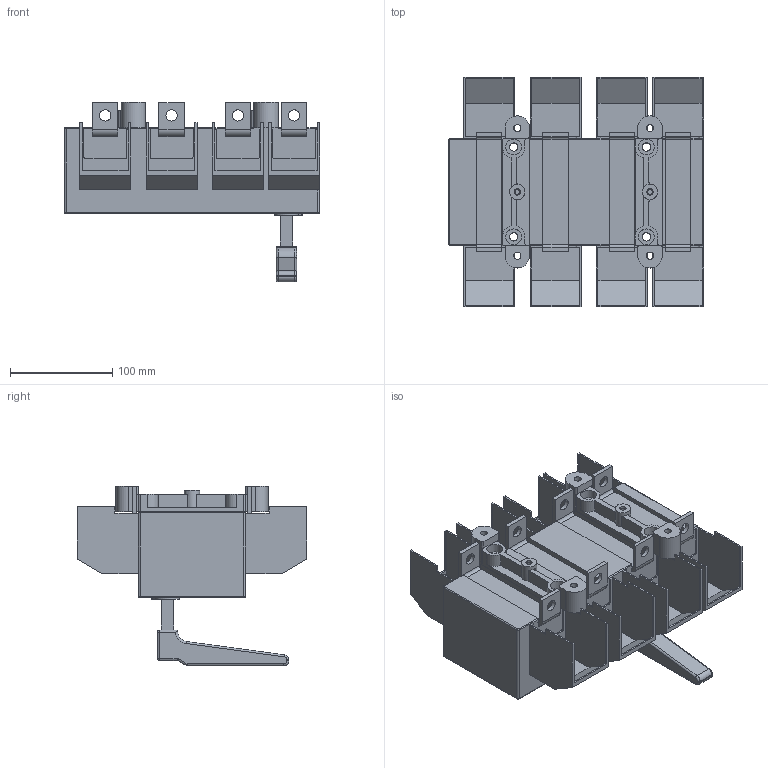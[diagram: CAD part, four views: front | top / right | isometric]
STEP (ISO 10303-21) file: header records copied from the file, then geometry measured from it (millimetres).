
FILE_DESCRIPTION(/* description */ (''),/* implementation_level */ '2;1');
FILE_NAME(/* name */ 'RA400 P3 NC-R z oslona zaciskow.stp',/* time_stamp */ '2021-08-18T14:23:13+02:00',/* author */ (''),/* organization */ (''),/* preprocessor_version */ 'ST-DEVELOPER v18.1',/* originating_system */ 'SIEMENS PLM Software NX 1965',/* authorisation */ '');
FILE_SCHEMA (('AUTOMOTIVE_DESIGN { 1 0 10303 214 3 1 1 1 }'));
Length unit declared in the file: millimetre
Products named in the file (1): RA400 P3 NC-R z oslona zaciskow
Bounding box: 250 x 225 x 176 mm (x, y, z)
Volume: 2436952.4 mm3; surface area: 344403.7 mm2
Topology: 1 solids, 1 shells, 500 faces, 1355 edges, 875 vertices
Faces by surface type: plane 335, cylinder 143, bspline 8, torus 8, sphere 6
Full cylindrical faces by diameter (mm): 4.8 x2, 6.2 x2, 7 x4, 8.2 x4, 11 x8, 14 x4, 15 x2, 15.5 x4
Entity records: 15611 total; most frequent: CARTESIAN_POINT 2849, ORIENTED_EDGE 2630, DIRECTION 2627, EDGE_CURVE 1315, LINE 981, VECTOR 981, VERTEX_POINT 868, AXIS2_PLACEMENT_3D 823
